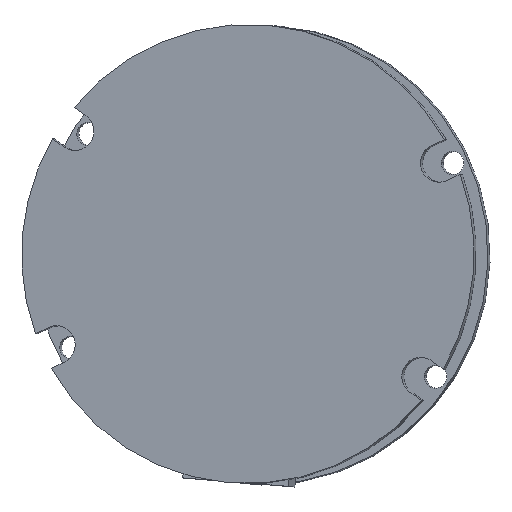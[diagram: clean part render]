
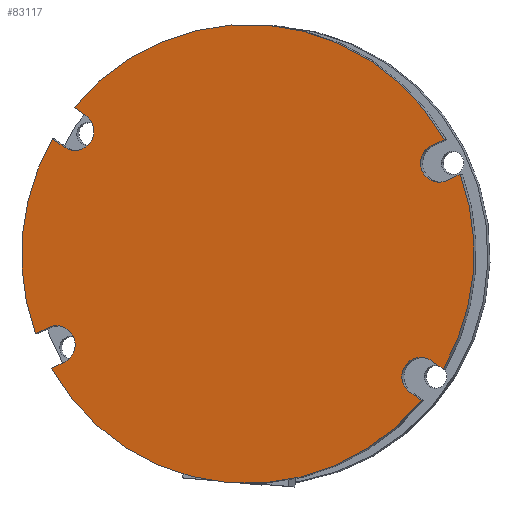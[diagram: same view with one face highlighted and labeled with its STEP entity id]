
A CAD part, top view. The second image highlights one B-rep face of the part: STEP entity #83117.
In plain terms, the highlighted planar face has unit normal (-0.171, 0.015, 0.985) as drawn and (0, 0, 1) by its records, which use the part's own axes.
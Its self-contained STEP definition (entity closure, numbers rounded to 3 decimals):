
#338 = AXIS2_PLACEMENT_3D ( 'NONE', #93652, #95151, #48928 ) ;
#395 = VECTOR ( 'NONE', #54175, 1000. ) ;
#1193 = CARTESIAN_POINT ( 'NONE',  ( -27.134, 12.789, 0. ) ) ;
#2814 = ORIENTED_EDGE ( 'NONE', *, *, #47450, .F. ) ;
#3389 = DIRECTION ( 'NONE',  ( -0.866, 0.5, 0. ) ) ;
#3743 = CIRCLE ( 'NONE', #88736, 2.5 ) ;
#3935 = VECTOR ( 'NONE', #17425, 1000. ) ;
#3954 = DIRECTION ( 'NONE',  ( 0.866, 0.5, 0. ) ) ;
#4302 = EDGE_CURVE ( 'NONE', #6672, #29216, #9923, .T. ) ;
#4784 = VERTEX_POINT ( 'NONE', #88608 ) ;
#5209 = EDGE_CURVE ( 'NONE', #75646, #37696, #19150, .T. ) ;
#6672 = VERTEX_POINT ( 'NONE', #45117 ) ;
#7594 = CARTESIAN_POINT ( 'NONE',  ( 0.006, 0.006, 0. ) ) ;
#8030 = LINE ( 'NONE', #92387, #40459 ) ;
#8137 = VECTOR ( 'NONE', #3954, 1000. ) ;
#8413 = CARTESIAN_POINT ( 'NONE',  ( 0.001, 0.006, 0. ) ) ;
#8482 = DIRECTION ( 'NONE',  ( -0.821, 0.57, 0. ) ) ;
#8568 = AXIS2_PLACEMENT_3D ( 'NONE', #88099, #10298, #49412 ) ;
#8829 = CIRCLE ( 'NONE', #16804, 30.005 ) ;
#9019 = ORIENTED_EDGE ( 'NONE', *, *, #13558, .F. ) ;
#9328 = PLANE ( 'NONE',  #338 ) ;
#9923 = LINE ( 'NONE', #17928, #65634 ) ;
#10298 = DIRECTION ( 'NONE',  ( 0., 0., 1. ) ) ;
#10482 = VERTEX_POINT ( 'NONE', #19330 ) ;
#12657 = CARTESIAN_POINT ( 'NONE',  ( -25.492, -11.829, 0. ) ) ;
#12715 = DIRECTION ( 'NONE',  ( 0.5, 0.866, 0. ) ) ;
#13017 = VERTEX_POINT ( 'NONE', #76343 ) ;
#13558 = EDGE_CURVE ( 'NONE', #29216, #4784, #90077, .T. ) ;
#14061 = VERTEX_POINT ( 'NONE', #12657 ) ;
#16203 = AXIS2_PLACEMENT_3D ( 'NONE', #52999, #97224, #36423 ) ;
#16648 = ORIENTED_EDGE ( 'NONE', *, *, #37051, .F. ) ;
#16738 = ORIENTED_EDGE ( 'NONE', *, *, #34589, .F. ) ;
#16804 = AXIS2_PLACEMENT_3D ( 'NONE', #71942, #95563, #19727 ) ;
#17275 = ORIENTED_EDGE ( 'NONE', *, *, #40482, .F. ) ;
#17332 = VERTEX_POINT ( 'NONE', #64286 ) ;
#17425 = DIRECTION ( 'NONE',  ( -0.866, -0.5, 0. ) ) ;
#17928 = CARTESIAN_POINT ( 'NONE',  ( -22.992, 16.171, 0. ) ) ;
#18030 = VERTEX_POINT ( 'NONE', #48989 ) ;
#19150 = LINE ( 'NONE', #27659, #99259 ) ;
#19330 = CARTESIAN_POINT ( 'NONE',  ( 24.647, -17.107, 0. ) ) ;
#19727 = DIRECTION ( 'NONE',  ( 0.905, 0.426, 0. ) ) ;
#20740 = CARTESIAN_POINT ( 'NONE',  ( 24.255, -13.994, 0. ) ) ;
#20980 = CARTESIAN_POINT ( 'NONE',  ( 25.505, -11.829, 0. ) ) ;
#22674 = AXIS2_PLACEMENT_3D ( 'NONE', #57967, #24971, #8482 ) ;
#23556 = CARTESIAN_POINT ( 'NONE',  ( 23.005, -16.159, 0. ) ) ;
#24427 = EDGE_CURVE ( 'NONE', #18030, #47700, #36363, .T. ) ;
#24971 = DIRECTION ( 'NONE',  ( 0., 0., -1. ) ) ;
#25831 = FACE_OUTER_BOUND ( 'NONE', #32329, .T. ) ;
#27007 = EDGE_CURVE ( 'NONE', #14061, #51418, #8030, .T. ) ;
#27111 = EDGE_CURVE ( 'NONE', #94492, #10482, #75780, .T. ) ;
#27659 = CARTESIAN_POINT ( 'NONE',  ( -24.634, -17.107, 0. ) ) ;
#29013 = LINE ( 'NONE', #40510, #3935 ) ;
#29216 = VERTEX_POINT ( 'NONE', #68007 ) ;
#29765 = VECTOR ( 'NONE', #65750, 1000. ) ;
#32329 = EDGE_LOOP ( 'NONE', ( #77019, #51062, #16738, #44442, #2814, #35471, #17275, #16648, #9019, #76609, #38983, #55706, #36977, #47679, #50442, #39687 ) ) ;
#33100 = CIRCLE ( 'NONE', #49173, 30. ) ;
#34589 = EDGE_CURVE ( 'NONE', #57327, #94492, #3743, .T. ) ;
#35471 = ORIENTED_EDGE ( 'NONE', *, *, #24427, .F. ) ;
#36363 = LINE ( 'NONE', #56649, #8137 ) ;
#36423 = DIRECTION ( 'NONE',  ( 0.5, -0.866, 0. ) ) ;
#36977 = ORIENTED_EDGE ( 'NONE', *, *, #68738, .F. ) ;
#37051 = EDGE_CURVE ( 'NONE', #4784, #17332, #29013, .T. ) ;
#37696 = VERTEX_POINT ( 'NONE', #44381 ) ;
#38111 = CARTESIAN_POINT ( 'NONE',  ( 24.255, 14.006, 0. ) ) ;
#38983 = ORIENTED_EDGE ( 'NONE', *, *, #52012, .F. ) ;
#39687 = ORIENTED_EDGE ( 'NONE', *, *, #5209, .F. ) ;
#40459 = VECTOR ( 'NONE', #52686, 1000. ) ;
#40482 = EDGE_CURVE ( 'NONE', #17332, #18030, #70355, .T. ) ;
#40510 = CARTESIAN_POINT ( 'NONE',  ( 24.647, 17.119, 0. ) ) ;
#43222 = DIRECTION ( 'NONE',  ( 0.866, 0.5, 0. ) ) ;
#44381 = CARTESIAN_POINT ( 'NONE',  ( -22.992, -16.159, 0. ) ) ;
#44442 = ORIENTED_EDGE ( 'NONE', *, *, #47676, .F. ) ;
#45117 = CARTESIAN_POINT ( 'NONE',  ( -22.992, 16.171, 0. ) ) ;
#47450 = EDGE_CURVE ( 'NONE', #47700, #13017, #8829, .T. ) ;
#47676 = EDGE_CURVE ( 'NONE', #13017, #57327, #60347, .T. ) ;
#47679 = ORIENTED_EDGE ( 'NONE', *, *, #27007, .F. ) ;
#47700 = VERTEX_POINT ( 'NONE', #89525 ) ;
#48928 = DIRECTION ( 'NONE',  ( 0., -1., 0. ) ) ;
#48989 = CARTESIAN_POINT ( 'NONE',  ( 25.505, 11.841, 0. ) ) ;
#49173 = AXIS2_PLACEMENT_3D ( 'NONE', #7594, #67806, #60759 ) ;
#49412 = DIRECTION ( 'NONE',  ( -0.5, -0.866, 0. ) ) ;
#50442 = ORIENTED_EDGE ( 'NONE', *, *, #82314, .F. ) ;
#50715 = LINE ( 'NONE', #59212, #29765 ) ;
#51062 = ORIENTED_EDGE ( 'NONE', *, *, #27111, .F. ) ;
#51418 = VERTEX_POINT ( 'NONE', #65685 ) ;
#51830 = DIRECTION ( 'NONE',  ( -0.866, 0.5, 0. ) ) ;
#52012 = EDGE_CURVE ( 'NONE', #96576, #6672, #59836, .T. ) ;
#52686 = DIRECTION ( 'NONE',  ( -0.866, -0.5, 0. ) ) ;
#52999 = CARTESIAN_POINT ( 'NONE',  ( -24.242, -13.994, 0. ) ) ;
#54175 = DIRECTION ( 'NONE',  ( 0.866, -0.5, 0. ) ) ;
#55706 = ORIENTED_EDGE ( 'NONE', *, *, #55820, .F. ) ;
#55820 = EDGE_CURVE ( 'NONE', #92961, #96576, #50715, .T. ) ;
#56649 = CARTESIAN_POINT ( 'NONE',  ( 25.505, 11.841, 0. ) ) ;
#57327 = VERTEX_POINT ( 'NONE', #20980 ) ;
#57967 = CARTESIAN_POINT ( 'NONE',  ( 0.006, 0.006, 0. ) ) ;
#58357 = CARTESIAN_POINT ( 'NONE',  ( -24.634, -17.107, 0. ) ) ;
#59212 = CARTESIAN_POINT ( 'NONE',  ( -27.134, 12.789, 0. ) ) ;
#59836 = CIRCLE ( 'NONE', #8568, 2.5 ) ;
#60347 = LINE ( 'NONE', #66902, #63315 ) ;
#60759 = DIRECTION ( 'NONE',  ( 0.821, -0.57, 0. ) ) ;
#63315 = VECTOR ( 'NONE', #51830, 1000. ) ;
#64286 = CARTESIAN_POINT ( 'NONE',  ( 23.005, 16.171, 0. ) ) ;
#64867 = EDGE_CURVE ( 'NONE', #10482, #75646, #33100, .T. ) ;
#65634 = VECTOR ( 'NONE', #3389, 1000. ) ;
#65685 = CARTESIAN_POINT ( 'NONE',  ( -27.134, -12.776, 0. ) ) ;
#65750 = DIRECTION ( 'NONE',  ( 0.866, -0.5, 0. ) ) ;
#66902 = CARTESIAN_POINT ( 'NONE',  ( 27.147, -12.776, 0. ) ) ;
#67806 = DIRECTION ( 'NONE',  ( 0., 0., -1. ) ) ;
#68007 = CARTESIAN_POINT ( 'NONE',  ( -24.634, 17.119, 0. ) ) ;
#68738 = EDGE_CURVE ( 'NONE', #51418, #92961, #75533, .T. ) ;
#68753 = DIRECTION ( 'NONE',  ( -0.5, 0.866, 0. ) ) ;
#70355 = CIRCLE ( 'NONE', #84800, 2.5 ) ;
#71942 = CARTESIAN_POINT ( 'NONE',  ( 0.001, 0.006, 0. ) ) ;
#72900 = CARTESIAN_POINT ( 'NONE',  ( 23.005, -16.159, 0. ) ) ;
#75438 = CARTESIAN_POINT ( 'NONE',  ( -25.492, 11.841, 0. ) ) ;
#75533 = CIRCLE ( 'NONE', #83586, 29.995 ) ;
#75646 = VERTEX_POINT ( 'NONE', #58357 ) ;
#75780 = LINE ( 'NONE', #23556, #395 ) ;
#76343 = CARTESIAN_POINT ( 'NONE',  ( 27.147, -12.776, 0. ) ) ;
#76609 = ORIENTED_EDGE ( 'NONE', *, *, #4302, .F. ) ;
#76785 = DIRECTION ( 'NONE',  ( 0., 0., 1. ) ) ;
#77019 = ORIENTED_EDGE ( 'NONE', *, *, #64867, .F. ) ;
#78708 = CIRCLE ( 'NONE', #16203, 2.5 ) ;
#81505 = DIRECTION ( 'NONE',  ( 0., 0., 1. ) ) ;
#82314 = EDGE_CURVE ( 'NONE', #37696, #14061, #78708, .T. ) ;
#83117 = ADVANCED_FACE ( 'NONE', ( #25831 ), #9328, .F. ) ;
#83586 = AXIS2_PLACEMENT_3D ( 'NONE', #8413, #92753, #86189 ) ;
#84800 = AXIS2_PLACEMENT_3D ( 'NONE', #38111, #76785, #68753 ) ;
#86189 = DIRECTION ( 'NONE',  ( -0.905, -0.426, 0. ) ) ;
#88099 = CARTESIAN_POINT ( 'NONE',  ( -24.242, 14.006, 0. ) ) ;
#88608 = CARTESIAN_POINT ( 'NONE',  ( 24.647, 17.119, 0. ) ) ;
#88736 = AXIS2_PLACEMENT_3D ( 'NONE', #20740, #81505, #12715 ) ;
#89525 = CARTESIAN_POINT ( 'NONE',  ( 27.147, 12.789, 0. ) ) ;
#90077 = CIRCLE ( 'NONE', #22674, 30. ) ;
#92387 = CARTESIAN_POINT ( 'NONE',  ( -25.492, -11.829, 0. ) ) ;
#92753 = DIRECTION ( 'NONE',  ( 0., 0., -1. ) ) ;
#92961 = VERTEX_POINT ( 'NONE', #1193 ) ;
#93652 = CARTESIAN_POINT ( 'NONE',  ( 0.006, 0.006, 0. ) ) ;
#94492 = VERTEX_POINT ( 'NONE', #72900 ) ;
#95151 = DIRECTION ( 'NONE',  ( 0., 0., -1. ) ) ;
#95563 = DIRECTION ( 'NONE',  ( 0., 0., -1. ) ) ;
#96576 = VERTEX_POINT ( 'NONE', #75438 ) ;
#97224 = DIRECTION ( 'NONE',  ( 0., 0., 1. ) ) ;
#99259 = VECTOR ( 'NONE', #43222, 1000. ) ;
